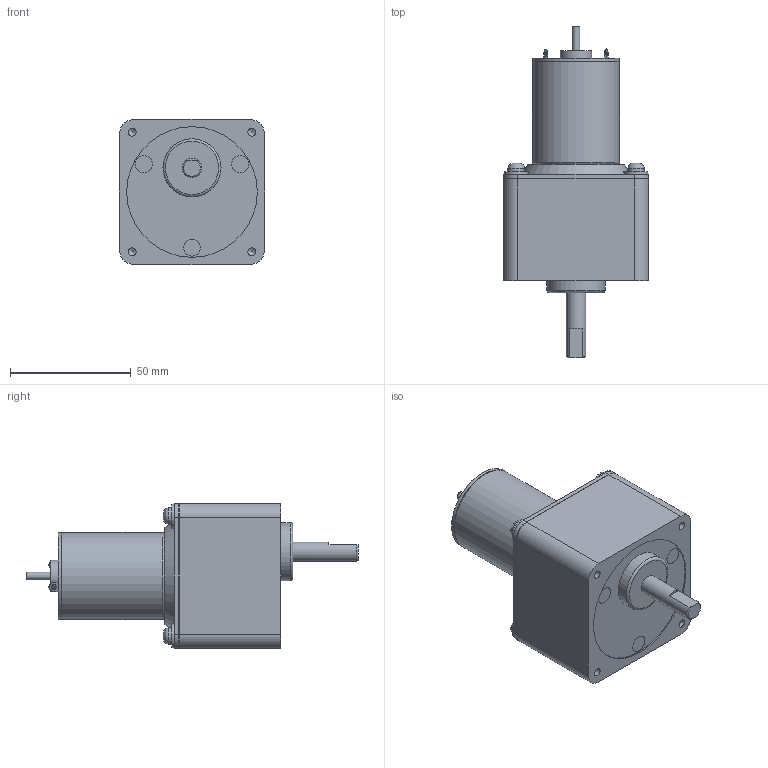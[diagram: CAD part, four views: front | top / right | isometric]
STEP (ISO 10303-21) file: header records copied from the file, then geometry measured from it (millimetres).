
FILE_DESCRIPTION((''),'2;1');
FILE_NAME('C:\Documents and Settings\SSEGAWA\デスクトップ\TP-3644L-CM-4.stp','2013-07-24T11:50:09',('SSEGAWA'),(''),'Autodesk Inventor 2010','Autodesk Inventor 2010','');
FILE_SCHEMA(('CONFIG_CONTROL_DESIGN'));
Length unit declared in the file: millimetre
Products named in the file (1): tp_3644l_cm-4_Shrinkwrap_1
Bounding box: 60 x 137.3 x 60 mm (x, y, z)
Volume: 210972.4 mm3; surface area: 24996.8 mm2
Topology: 1 solids, 4 shells, 111 faces, 237 edges, 157 vertices
Faces by surface type: plane 51, cylinder 35, bspline 20, torus 3, cone 2
Full cylindrical faces by diameter (mm): 3 x1, 3.175 x1, 3.5 x1, 6.8 x4, 7 x3, 8 x1, 9.8 x4, 13 x1, 24 x1, 35.6 x1, 36 x2, 54 x1
Entity records: 3142 total; most frequent: CARTESIAN_POINT 875, DIRECTION 454, ORIENTED_EDGE 346, AXIS2_PLACEMENT_3D 191, EDGE_LOOP 183, EDGE_CURVE 173, VERTEX_POINT 138, STYLED_ITEM 112
